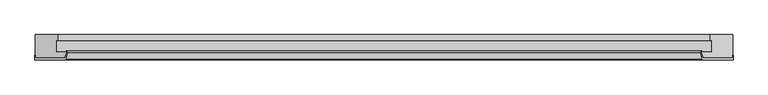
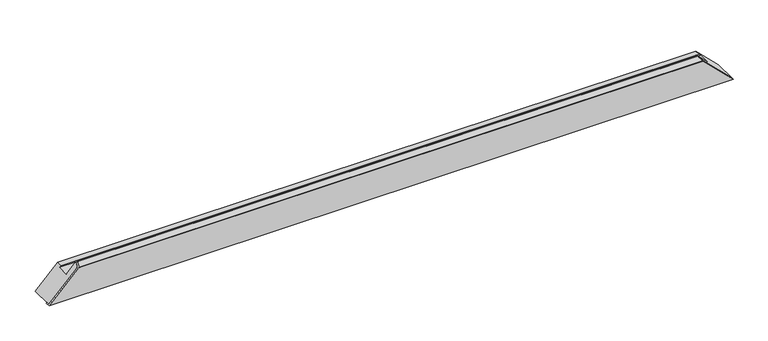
"""IFC4 building model written with IfcOpenShell, lengths in millimetres: proxy geometry, Weiku - Montante - Caixilho 02.2.01.005 : Weiku - Montante - Caixilho 02.2.01.005."""

from ifc_helpers import new_model, si_unit, frame, origin, place, context, project, spatial, polyline, ellipse_curve, source, transform, mapped, element, save
from ifc_brep_helpers import plane_surface, cylinder_surface, revolved_surface, advanced_brep


def generic_models_5ff713cf(model_context):
    return source(origin(), model_context, "Body", "AdvancedBrep", [
        advanced_brep(
        [(682.9663236, -4.0, 64.0336764), (748.0, -4.0, -1.0), (748.0, 6.4862095, -1.0), (747.0, 6.4862095, 0.0), (747.0, 0.0, 0.0), (685.4997332, 0.0, 61.5002668), (682.6019557, 2.2235429, 64.3980443), (680.118227, 11.4929448, 66.881773), (680.8909676, 12.5, 66.1090324), (680.8909676, 14.5, 66.1090324), (678.1863753, 10.9753067, 68.8136247), (682.0003978, -3.258819, 64.9996022), (-748.0, -4.0, -1.0), (-682.9663236, -4.0, 64.0336764), (-682.0003978, -3.258819, 64.9996022), (-678.1863753, 10.9753067, 68.8136247), (-680.8909676, 14.5, 66.1090324), (-680.8909676, 12.5, 66.1090324), (-680.118227, 11.4929448, 66.881773), (-682.6019557, 2.2235429, 64.3980443), (-685.4997332, 0.0, 61.5002668), (-747.0, 0.0, 0.0), (-747.0, 6.4862095, 0.0), (-748.0, 6.4862095, -1.0)],
        [
            (0, 1),
            (1, 2),
            (2, 3),
            (3, 4),
            (4, 5),
            (5, 6, ellipse_curve(frame((685.4997332, 3.0, 61.5002668), z_axis=(-0.7071067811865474, 0.0, -0.7071067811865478), x_axis=(0.7071067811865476, 0.0, -0.7071067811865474)), 4.2426407, 3.0)),
            (6, 7),
            (7, 8, ellipse_curve(frame((680.8909676, 11.7, 66.1090324), z_axis=(-0.7071067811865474, 0.0, -0.7071067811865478), x_axis=(0.7071067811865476, 0.0, -0.7071067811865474)), 1.1313708, 0.8)),
            (8, 9),
            (9, 10, ellipse_curve(frame((680.8909676, 11.7, 66.1090324), z_axis=(0.7071067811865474, 0.0, 0.7071067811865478), x_axis=(-0.7071067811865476, 0.0, 0.7071067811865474)), 3.959798, 2.8)),
            (10, 11),
            (11, 0, ellipse_curve(frame((682.9663236, -3.0, 64.0336764), z_axis=(0.7071067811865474, 0.0, 0.7071067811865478), x_axis=(-0.7071067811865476, 0.0, 0.7071067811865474)), 1.4142136, 1.0)),
            (12, 13),
            (13, 14, ellipse_curve(frame((-682.9663236, -3.0, 64.0336764), z_axis=(-0.707106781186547, 0.0, 0.707106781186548), x_axis=(-0.7071067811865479, 0.0, -0.707106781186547)), 1.4142136, 1.0)),
            (14, 15),
            (15, 16, ellipse_curve(frame((-680.8909676, 11.7, 66.1090324), z_axis=(-0.707106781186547, 0.0, 0.707106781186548), x_axis=(-0.7071067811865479, 0.0, -0.707106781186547)), 3.959798, 2.8)),
            (16, 17),
            (17, 18, ellipse_curve(frame((-680.8909676, 11.7, 66.1090324), z_axis=(0.707106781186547, 0.0, -0.707106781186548), x_axis=(0.7071067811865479, 0.0, 0.707106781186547)), 1.1313708, 0.8)),
            (18, 19),
            (19, 20, ellipse_curve(frame((-685.4997332, 3.0, 61.5002668), z_axis=(0.707106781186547, 0.0, -0.707106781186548), x_axis=(0.7071067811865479, 0.0, 0.707106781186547)), 4.2426407, 3.0)),
            (20, 21),
            (21, 22),
            (22, 23),
            (23, 12),
            (0, 13),
            (12, 1),
            (11, 14),
            (10, 15),
            (9, 16),
            (8, 17),
            (7, 18),
            (6, 19),
            (5, 20),
            (4, 21),
            (3, 22),
            (2, 23),
        ],
        [
            plane_surface(frame((677.0, -15.0, 70.0), z_axis=(0.7071067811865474, 0.0, 0.7071067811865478), x_axis=(0.0, 1.0, 0.0))),
            plane_surface(frame((-817.0, -15.0, -70.0), z_axis=(-0.707106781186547, 0.0, 0.707106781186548), x_axis=(0.0, 1.0, 0.0))),
            plane_surface(frame((-749.8284271, -4.0, -1.0), z_axis=(0.0, -1.0, 0.0), x_axis=(1.0, 0.0, 0.0))),
            cylinder_surface(frame((-749.8284271, -3.0, 64.0336764), z_axis=(-1.0, 0.0, 0.0), x_axis=(0.0, 1.0, 0.0)), 1.0),
            plane_surface(frame((-749.8284271, -3.258819, 64.9996022), z_axis=(0.0, -0.25881904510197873, 0.9659258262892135), x_axis=(1.0, 0.0, 0.0))),
            cylinder_surface(frame((-749.8284271, 11.7, 66.1090324), z_axis=(-1.0, 0.0, 0.0), x_axis=(0.0, 1.0, 0.0)), 2.8),
            plane_surface(frame((-749.8284271, 14.5, 66.1090324), z_axis=(0.0, 0.0, -1.0), x_axis=(1.0, 0.0, 0.0))),
            revolved_surface(polyline([(681.6909675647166, 12.5, 66.1090324), (-681.6909675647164, 12.5, 66.1090324)]), (-749.8284271, 11.7, 66.1090324), (1.0, 0.0, 0.0)),
            plane_surface(frame((-749.8284271, 11.4929448, 66.881773), z_axis=(0.0, 0.2588190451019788, -0.9659258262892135), x_axis=(1.0, 0.0, 0.0))),
            revolved_surface(polyline([(688.4997332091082, 6.0, 61.5002668), (-688.4997332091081, 6.0, 61.5002668)]), (-749.8284271, 3.0, 61.5002668), (1.0, 0.0, 0.0)),
            plane_surface(frame((-749.8284271, 0.0, 61.5002668), z_axis=(0.0, 1.0, 0.0), x_axis=(1.0, 0.0, 0.0))),
            plane_surface(frame((-749.8284271, 0.0, 0.0), z_axis=(0.0, 0.0, 1.0), x_axis=(1.0, 0.0, 0.0))),
            plane_surface(frame((-749.8284271, 6.4862095, 0.0), z_axis=(0.0, 1.0, 0.0), x_axis=(1.0, 0.0, 0.0))),
            plane_surface(frame((-749.8284271, 6.4862095, -1.0), z_axis=(0.0, 0.0, -1.0), x_axis=(1.0, 0.0, 0.0))),
        ],
        [
            (0, [[1, 2, 3, 4, 5, 6, 7, 8, 9, 10, 11, 12]]),
            (1, [[13, 14, 15, 16, 17, 18, 19, 20, 21, 22, 23, 24]]),
            (2, [[-1, 25, -13, 26]]),
            (3, [[-12, 27, -14, -25]]),
            (4, [[-11, 28, -15, -27]]),
            (5, [[-10, 29, -16, -28]]),
            (6, [[-9, 30, -17, -29]]),
            (7, [[-8, 31, -18, -30]]),
            (8, [[-7, 32, -19, -31]]),
            (9, [[-6, 33, -20, -32]]),
            (10, [[-5, 34, -21, -33]]),
            (11, [[-4, 35, -22, -34]]),
            (12, [[-3, 36, -23, -35]]),
            (13, [[-2, -26, -24, -36]]),
        ],
    ),
        advanced_brep(
        [(-701.0, 12.5, 46.0), (-680.8909676, 12.5, 66.1090324), (680.8909676, 12.5, 66.1090324), (701.0, 12.5, 46.0), (-701.0, 37.8314286, 46.0), (701.0, 37.8314286, 46.0), (-698.0, 37.027581, 49.0), (698.0, 37.027581, 49.0), (-698.0, 50.0, 49.0), (698.0, 50.0, 49.0), (747.0, 50.0, 0.0), (-747.0, 50.0, 0.0), (747.0, 0.0, 0.0), (-747.0, 0.0, 0.0), (685.4997332, 0.0, 61.5002668), (-685.4997332, 0.0, 61.5002668), (-680.118227, 11.4929448, 66.881773), (-682.6019557, 2.2235429, 64.3980443), (682.6019557, 2.2235429, 64.3980443), (680.118227, 11.4929448, 66.881773)],
        [
            (0, 1),
            (1, 2),
            (2, 3),
            (3, 0),
            (4, 0),
            (3, 5),
            (5, 4),
            (6, 4),
            (5, 7),
            (7, 6),
            (8, 6),
            (7, 9),
            (9, 8),
            (10, 11),
            (11, 8),
            (9, 10),
            (10, 12),
            (12, 13),
            (13, 11),
            (12, 14),
            (14, 15),
            (15, 13),
            (16, 17),
            (17, 18),
            (18, 19),
            (19, 16),
            (15, 17, ellipse_curve(frame((-685.4997332, 3.0, 61.5002668), z_axis=(-0.707106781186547, 0.0, 0.707106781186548), x_axis=(-0.7071067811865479, 0.0, -0.707106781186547)), 4.2426407, 3.0)),
            (16, 1, ellipse_curve(frame((-680.8909676, 11.7, 66.1090324), z_axis=(-0.707106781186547, 0.0, 0.707106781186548), x_axis=(-0.7071067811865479, 0.0, -0.707106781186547)), 1.1313708, 0.8)),
            (2, 19, ellipse_curve(frame((680.8909676, 11.7, 66.1090324), z_axis=(0.7071067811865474, 0.0, 0.7071067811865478), x_axis=(-0.7071067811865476, 0.0, 0.7071067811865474)), 1.1313708, 0.8)),
            (18, 14, ellipse_curve(frame((685.4997332, 3.0, 61.5002668), z_axis=(0.7071067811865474, 0.0, 0.7071067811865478), x_axis=(-0.7071067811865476, 0.0, 0.7071067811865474)), 4.2426407, 3.0)),
        ],
        [
            plane_surface(frame((-747.0, 12.5, 66.1090324), z_axis=(0.0, 1.0, 0.0), x_axis=(1.0, 0.0, 0.0))),
            plane_surface(frame((-747.0, 12.5, 46.0), z_axis=(0.0, 0.0, 1.0), x_axis=(1.0, 0.0, 0.0))),
            plane_surface(frame((-747.0, 37.8314286, 46.0), z_axis=(0.0, -0.9659258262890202, -0.2588190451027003), x_axis=(1.0, 0.0, 0.0))),
            plane_surface(frame((-747.0, 37.027581, 49.0), z_axis=(0.0, 0.0, 1.0), x_axis=(1.0, 0.0, 0.0))),
            plane_surface(frame((-747.0, 50.0, 49.0), z_axis=(0.0, 1.0, 0.0), x_axis=(1.0, 0.0, 0.0))),
            plane_surface(frame((-747.0, 50.0, 0.0), z_axis=(0.0, 0.0, -1.0), x_axis=(1.0, 0.0, 0.0))),
            plane_surface(frame((-747.0, 0.0, 0.0), z_axis=(0.0, -1.0, 0.0), x_axis=(1.0, 0.0, 0.0))),
            plane_surface(frame((-747.0, 2.2235429, 64.3980443), z_axis=(0.0, -0.2588190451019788, 0.9659258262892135), x_axis=(1.0, 0.0, 0.0))),
            plane_surface(frame((-817.0, -15.0, -70.0), z_axis=(-0.707106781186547, 0.0, 0.707106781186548), x_axis=(0.0, 1.0, 0.0))),
            plane_surface(frame((677.0, -15.0, 70.0), z_axis=(0.7071067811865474, 0.0, 0.7071067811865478), x_axis=(0.0, 1.0, 0.0))),
            cylinder_surface(frame((-747.0, 11.7, 66.1090324), z_axis=(-1.0, 0.0, 0.0), x_axis=(0.0, 1.0, 0.0)), 0.8),
            cylinder_surface(frame((-747.0, 3.0, 61.5002668), z_axis=(-1.0, 0.0, 0.0), x_axis=(0.0, 1.0, 0.0)), 3.0),
        ],
        [
            (0, [[1, 2, 3, 4]]),
            (1, [[5, -4, 6, 7]]),
            (2, [[8, -7, 9, 10]]),
            (3, [[11, -10, 12, 13]]),
            (4, [[14, 15, -13, 16]]),
            (5, [[-14, 17, 18, 19]]),
            (6, [[-18, 20, 21, 22]]),
            (7, [[23, 24, 25, 26]]),
            (8, [[-1, -5, -8, -11, -15, -19, -22, 27, -23, 28]]),
            (9, [[-3, 29, -25, 30, -20, -17, -16, -12, -9, -6]]),
            (10, [[-28, -26, -29, -2]]),
            (11, [[-27, -21, -30, -24]]),
        ],
    ),
    ])


if __name__ == "__main__":
    model = new_model("IFC4")
    model_context = context("Model", 3, world=origin())
    ifc_project = project(units=[si_unit("LENGTHUNIT", "METRE", prefix="MILLI")], contexts=[model_context])
    site = spatial("IfcSite", under=ifc_project)
    building = spatial("IfcBuilding", under=site)
    placement = place(None, origin())
    generic_models_shape = generic_models_5ff713cf(model_context)
    element("IfcBuildingElementProxy", 1, Name="Weiku - Montante - Caixilho 02.2.01.005 : Weiku - Montante - Caixilho 02.2.01.005", ObjectType="Weiku - Montante - Caixilho 02.2.01.005 : Weiku - Montante - Caixilho 02.2.01.005", at=placement, inside=building, context=model_context, shape_type="MappedRepresentation", body=[
        mapped(generic_models_shape, transform((0.0, 0.0, 0.0), x_axis=(1.0, 0.0, 0.0), y_axis=(0.0, 1.0, 0.0), z_axis=(0.0, 0.0, 1.0))),
    ])
    save(model, "model.ifc")
